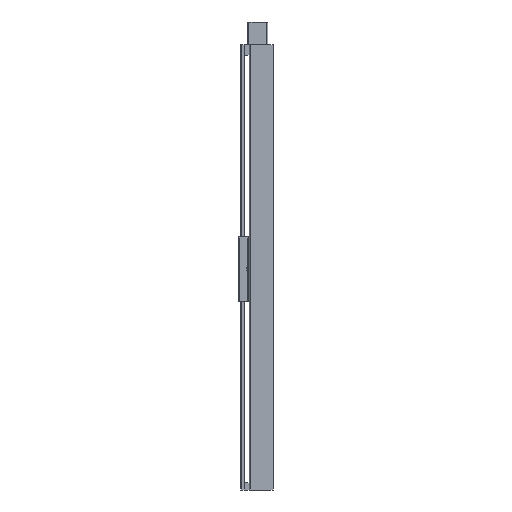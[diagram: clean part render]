
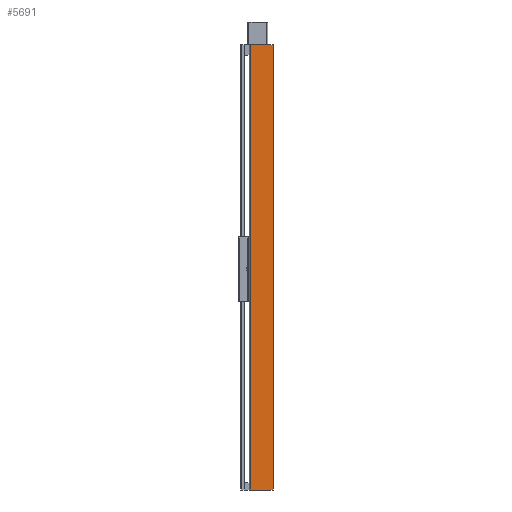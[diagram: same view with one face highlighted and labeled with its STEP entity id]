
A CAD part, left-side view. The second image highlights one B-rep face of the part: STEP entity #5691.
In plain terms, the highlighted planar face has unit normal (-1, 0, 0).
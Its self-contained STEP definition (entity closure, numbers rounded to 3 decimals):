
#1937=CARTESIAN_POINT('',(-68.,65.5,1245.0));
#1938=VERTEX_POINT('',#1937);
#1946=CARTESIAN_POINT('',(-68.0,0.5,1245.0));
#1947=VERTEX_POINT('',#1946);
#1948=CARTESIAN_POINT('',(-68.0,0.5,1245.0));
#1949=DIRECTION('',(0.0,1.0,0.0));
#1950=VECTOR('',#1949,65.0);
#1951=LINE('',#1948,#1950);
#1952=EDGE_CURVE('',#1947,#1938,#1951,.T.);
#4946=CARTESIAN_POINT('',(-68.0,0.5,-20.0));
#4947=VERTEX_POINT('',#4946);
#4956=CARTESIAN_POINT('',(-68.,65.5,-20.0));
#4957=VERTEX_POINT('',#4956);
#4958=CARTESIAN_POINT('',(-68.,65.5,-20.0));
#4959=DIRECTION('',(0.0,-1.0,0.0));
#4960=VECTOR('',#4959,65.0);
#4961=LINE('',#4958,#4960);
#4962=EDGE_CURVE('',#4957,#4947,#4961,.T.);
#5640=CARTESIAN_POINT('',(-68.0,0.5,-20.0));
#5641=DIRECTION('',(0.0,0.0,1.0));
#5642=VECTOR('',#5641,1265.0);
#5643=LINE('',#5640,#5642);
#5644=EDGE_CURVE('',#4947,#1947,#5643,.T.);
#5675=CARTESIAN_POINT('',(-68.0,0.5,0.0));
#5676=DIRECTION('',(-1.0,0.0,0.0));
#5677=DIRECTION('',(0.0,0.0,1.0));
#5678=AXIS2_PLACEMENT_3D('',#5675,#5676,#5677);
#5679=PLANE('',#5678);
#5680=CARTESIAN_POINT('',(-68.,65.5,-20.0));
#5681=DIRECTION('',(0.0,0.0,1.0));
#5682=VECTOR('',#5681,1265.0);
#5683=LINE('',#5680,#5682);
#5684=EDGE_CURVE('',#4957,#1938,#5683,.T.);
#5685=ORIENTED_EDGE('',*,*,#5684,.F.);
#5686=ORIENTED_EDGE('',*,*,#4962,.T.);
#5687=ORIENTED_EDGE('',*,*,#5644,.T.);
#5688=ORIENTED_EDGE('',*,*,#1952,.T.);
#5689=EDGE_LOOP('',(#5685,#5686,#5687,#5688));
#5690=FACE_OUTER_BOUND('',#5689,.T.);
#5691=ADVANCED_FACE('',(#5690),#5679,.T.);
